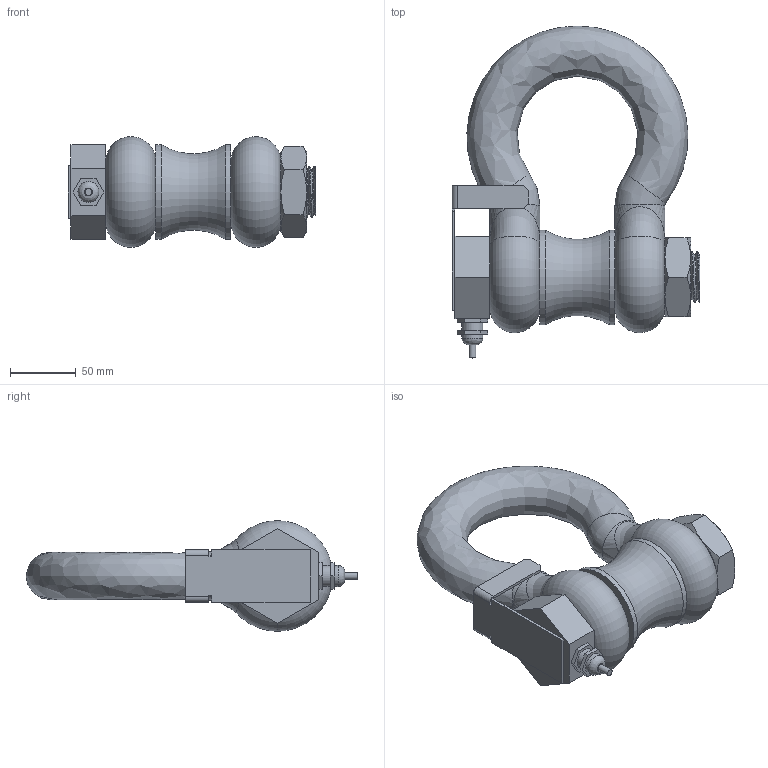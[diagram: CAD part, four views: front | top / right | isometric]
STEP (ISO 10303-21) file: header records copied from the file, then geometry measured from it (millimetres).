
FILE_DESCRIPTION(/* description */ (''),/* implementation_level */ '2;1');
FILE_NAME(/* name */ 'C:/Users/fardi/Dropbox/Work/Anyload/Load Cell Models/Product Catalog 3D/Weight Modules/535/535AHM2/535AHM2-20t v10.step',/* time_stamp */ '2020-05-05T10:50:21-07:00',/* author */ (''),/* organization */ (''),/* preprocessor_version */ 'ST-DEVELOPER v18.1',/* originating_system */ 'Autodesk Translation Framework v9.2.0.1227',/* authorisation */ '');
FILE_SCHEMA (('AUTOMOTIVE_DESIGN { 1 0 10303 214 3 1 1 }'));
Length unit declared in the file: millimetre
Products named in the file (7): 535AHM2-20t; Shackle; Bobin; Pin; Connector v2; Anti Rotation; 90326A225
Assembly tree (6 placements, depth 3):
  535AHM2-20t
    Shackle
    Bobin
    Pin
      Connector v2
    Anti Rotation
    90326A225
Bounding box: 188.14 x 252.21 x 84 mm (x, y, z)
Volume: 1085503.5 mm3; surface area: 162308.2 mm2
Topology: 6 solids, 6 shells, 154 faces, 372 edges, 228 vertices
Faces by surface type: plane 73, cylinder 46, cone 16, bspline 14, torus 5
Full cylindrical faces by diameter (mm): 5.1 x1, 12 x1, 16 x2, 34.132 x7, 35.103 x4, 38.703 x10, 39 x9, 72 x2
Entity records: 9180 total; most frequent: CARTESIAN_POINT 5657, ORIENTED_EDGE 728, DIRECTION 649, EDGE_CURVE 364, AXIS2_PLACEMENT_3D 237, VERTEX_POINT 228, LINE 175, VECTOR 175
